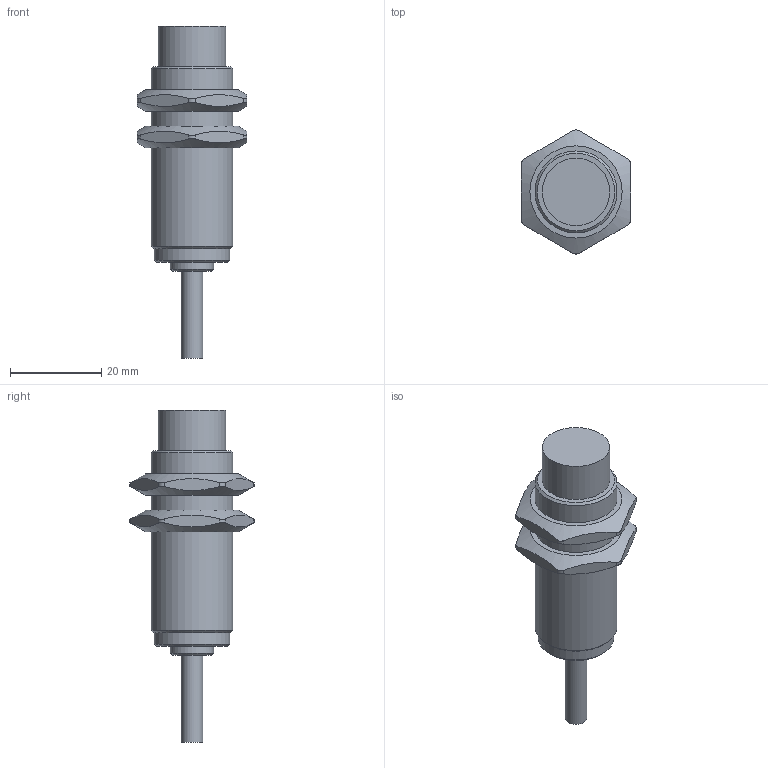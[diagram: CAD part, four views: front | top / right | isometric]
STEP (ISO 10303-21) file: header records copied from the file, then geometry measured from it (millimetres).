
FILE_DESCRIPTION(/* description */ (''),/* implementation_level */ '2;1');
FILE_NAME(/* name */ '3DCAD_IS C18MM_xxx_xNx.stp',/* time_stamp */ '2021-09-17T13:40:34+02:00',/* author */ ('CC2'),/* organization */ ('Leuze electronic'),/* preprocessor_version */ 'ST-DEVELOPER v16',/* originating_system */ 'SIEMENS PLM Software NX 11.0',/* authorisation */ '');
FILE_SCHEMA (('AUTOMOTIVE_DESIGN { 1 0 10303 214 3 1 1 1 }'));
Length unit declared in the file: millimetre
Products named in the file (2): 020702_00.0_1-Mutter 6KT - M18_SW24; 19-103347_00_1-3DCAD_IS C18MM_xxx_xNx
Assembly tree (2 placements, depth 2):
  19-103347_00_1-3DCAD_IS C18MM_xxx_xNx
    020702_00.0_1-Mutter 6KT - M18_SW24  x2
Bounding box: 23.97 x 27.24 x 72.9 mm (x, y, z)
Volume: 14583.1 mm3; surface area: 5553.2 mm2
Topology: 3 solids, 3 shells, 49 faces, 164 edges, 125 vertices
Faces by surface type: plane 22, cylinder 19, cone 8
Full cylindrical faces by diameter (mm): 4.8 x1, 9.5 x1, 14.8 x1, 16.6 x1, 18 x3
Entity records: 1171 total; most frequent: CARTESIAN_POINT 391, ORIENTED_EDGE 160, DIRECTION 118, EDGE_CURVE 80, VERTEX_POINT 68, AXIS2_PLACEMENT_3D 53, EDGE_LOOP 50, B_SPLINE_CURVE_WITH_KNOTS 36
